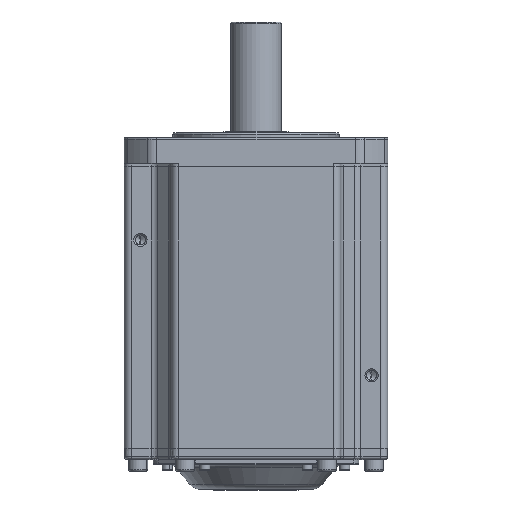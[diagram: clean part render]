
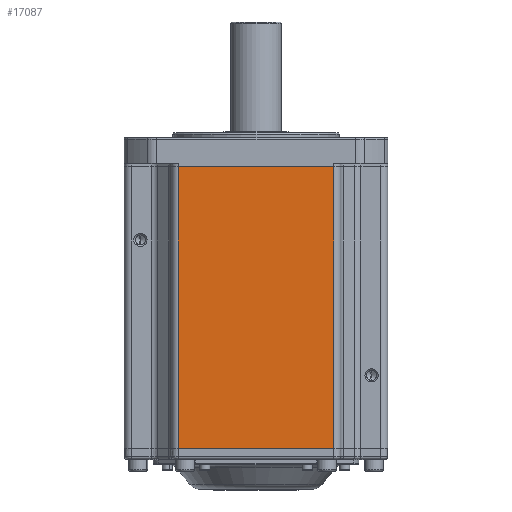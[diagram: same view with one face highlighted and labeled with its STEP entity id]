
A CAD part, front view. The second image highlights one B-rep face of the part: STEP entity #17087.
In plain terms, the highlighted planar face has unit normal (0, -1, 0).
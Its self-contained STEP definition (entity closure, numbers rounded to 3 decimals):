
#1754 = LINE ( 'NONE', #7094, #11022 ) ;
#1958 = LINE ( 'NONE', #49514, #51966 ) ;
#7094 = CARTESIAN_POINT ( 'NONE',  ( 53.026, -89.007, -896.673 ) ) ;
#8078 = EDGE_CURVE ( 'NONE', #49477, #50365, #44153, .T. ) ;
#11022 = VECTOR ( 'NONE', #17008, 1000. ) ;
#14907 = VECTOR ( 'NONE', #38157, 1000. ) ;
#15511 = EDGE_CURVE ( 'NONE', #49759, #44416, #1754, .T. ) ;
#17008 = DIRECTION ( 'NONE',  ( 0., 0., 1. ) ) ;
#17087 = ADVANCED_FACE ( 'NONE', ( #57050 ), #59497, .F. ) ;
#20125 = CARTESIAN_POINT ( 'NONE',  ( 58.026, -89.007, -896.673 ) ) ;
#20817 = LINE ( 'NONE', #58106, #25431 ) ;
#25431 = VECTOR ( 'NONE', #33997, 1000. ) ;
#26155 = ORIENTED_EDGE ( 'NONE', *, *, #15511, .T. ) ;
#29591 = DIRECTION ( 'NONE',  ( 0., 0., -1. ) ) ;
#31069 = EDGE_LOOP ( 'NONE', ( #49248, #62299, #26155, #59548 ) ) ;
#32527 = CARTESIAN_POINT ( 'NONE',  ( -52.974, -89.007, -89.273 ) ) ;
#33997 = DIRECTION ( 'NONE',  ( 1., 0., 0. ) ) ;
#38157 = DIRECTION ( 'NONE',  ( 0., 0., -1. ) ) ;
#38726 = EDGE_CURVE ( 'NONE', #44416, #49477, #1958, .T. ) ;
#39412 = DIRECTION ( 'NONE',  ( -1., 0., 0. ) ) ;
#43910 = AXIS2_PLACEMENT_3D ( 'NONE', #20125, #49377, #29591 ) ;
#44153 = LINE ( 'NONE', #52535, #14907 ) ;
#44416 = VERTEX_POINT ( 'NONE', #54915 ) ;
#48112 = CARTESIAN_POINT ( 'NONE',  ( -52.974, -89.007, 103.327 ) ) ;
#49248 = ORIENTED_EDGE ( 'NONE', *, *, #8078, .T. ) ;
#49377 = DIRECTION ( 'NONE',  ( 0., 1., 0. ) ) ;
#49477 = VERTEX_POINT ( 'NONE', #48112 ) ;
#49514 = CARTESIAN_POINT ( 'NONE',  ( 58.026, -89.007, 103.327 ) ) ;
#49759 = VERTEX_POINT ( 'NONE', #54975 ) ;
#50365 = VERTEX_POINT ( 'NONE', #32527 ) ;
#51485 = EDGE_CURVE ( 'NONE', #50365, #49759, #20817, .T. ) ;
#51966 = VECTOR ( 'NONE', #39412, 1000. ) ;
#52535 = CARTESIAN_POINT ( 'NONE',  ( -52.974, -89.007, -896.673 ) ) ;
#54915 = CARTESIAN_POINT ( 'NONE',  ( 53.026, -89.007, 103.327 ) ) ;
#54975 = CARTESIAN_POINT ( 'NONE',  ( 53.026, -89.007, -89.273 ) ) ;
#57050 = FACE_OUTER_BOUND ( 'NONE', #31069, .T. ) ;
#58106 = CARTESIAN_POINT ( 'NONE',  ( -154.318, -89.007, -89.273 ) ) ;
#59497 = PLANE ( 'NONE',  #43910 ) ;
#59548 = ORIENTED_EDGE ( 'NONE', *, *, #38726, .T. ) ;
#62299 = ORIENTED_EDGE ( 'NONE', *, *, #51485, .T. ) ;
